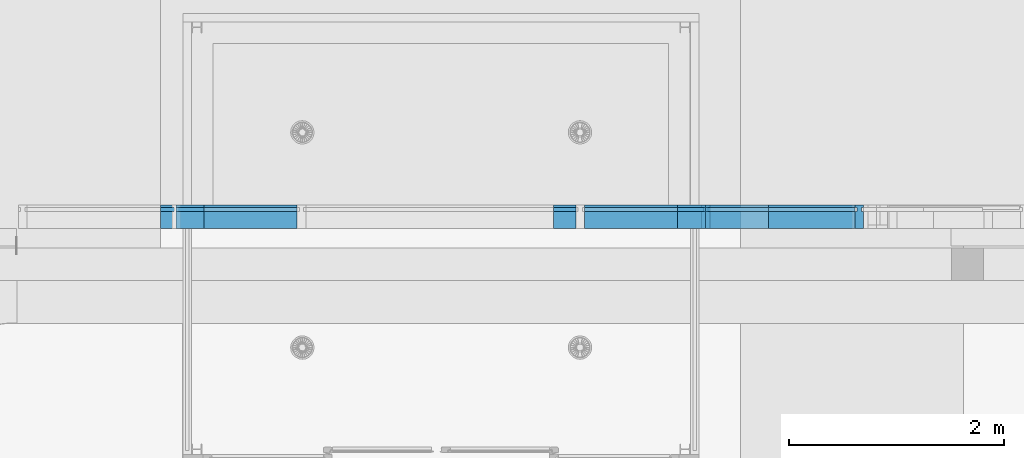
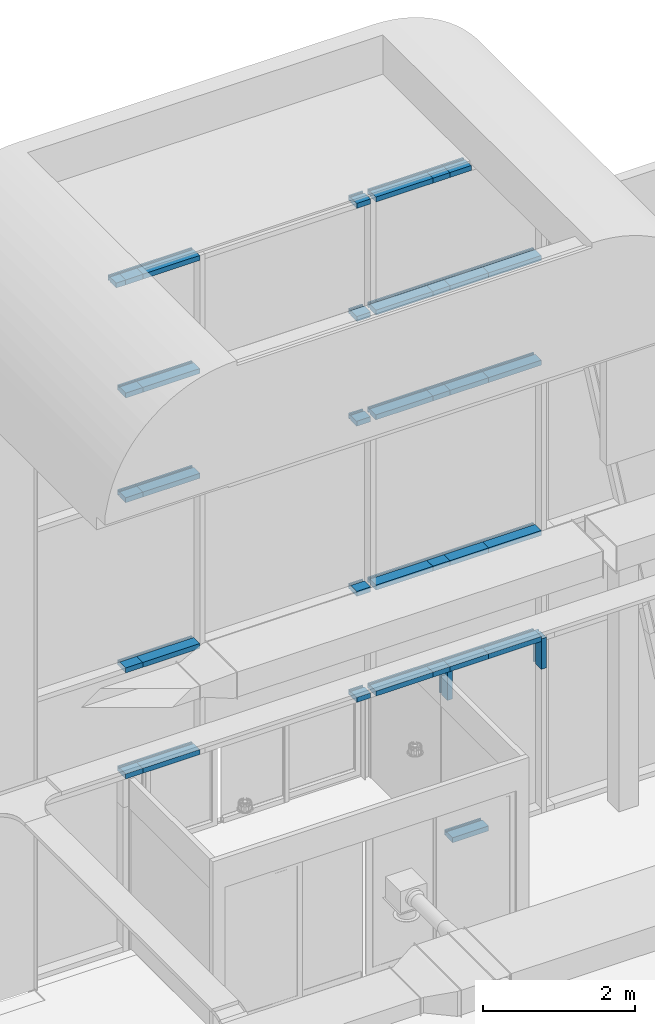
# One storey, part 192 of 302: 38 members, 1 element without a shape of its own.
"""IFC2X3 building model written with IfcOpenShell, lengths in metres."""

from ifc_helpers import new_model, entity, si_unit, converted_unit, derived_unit, direction, frame, origin, place, context, subcontext, project, spatial, polyline, outline, extrude, source, transform, mapped, material, type_object, type_shapes, element, aggregate, save


model = new_model("IFC2X3")

# Units and contexts
model_context = context("Model", 3, precision=1e-05, world=origin(), true_north=direction((6.12303176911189e-17, 1.0)))
body_context = subcontext(model_context, "Body", "Model", "MODEL_VIEW")
ifc_project = project(units=[si_unit("LENGTHUNIT", "METRE"), si_unit("AREAUNIT", "SQUARE_METRE"), si_unit("VOLUMEUNIT", "CUBIC_METRE"), converted_unit("PLANEANGLEUNIT", "DEGREE", entity("IfcRatioMeasure", 0.0174532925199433), si_unit("PLANEANGLEUNIT", "RADIAN"), dimensions=[0, 0, 0, 0, 0, 0, 0]), si_unit("MASSUNIT", "GRAM", prefix="KILO"), derived_unit("MASSDENSITYUNIT", [(si_unit("MASSUNIT", "GRAM", prefix="KILO"), 1), (si_unit("LENGTHUNIT", "METRE"), -3)]), derived_unit("MOMENTOFINERTIAUNIT", [(si_unit("LENGTHUNIT", "METRE"), 4)]), si_unit("TIMEUNIT", "SECOND"), si_unit("FREQUENCYUNIT", "HERTZ"), si_unit("THERMODYNAMICTEMPERATUREUNIT", "DEGREE_CELSIUS"), derived_unit("THERMALTRANSMITTANCEUNIT", [(si_unit("MASSUNIT", "GRAM", prefix="KILO"), 1), (si_unit("THERMODYNAMICTEMPERATUREUNIT", "KELVIN"), -1), (si_unit("TIMEUNIT", "SECOND"), -3)]), derived_unit("VOLUMETRICFLOWRATEUNIT", [(si_unit("LENGTHUNIT", "METRE"), 3), (si_unit("TIMEUNIT", "SECOND"), -1)]), si_unit("ELECTRICCURRENTUNIT", "AMPERE"), si_unit("ELECTRICVOLTAGEUNIT", "VOLT"), si_unit("POWERUNIT", "WATT"), si_unit("FORCEUNIT", "NEWTON", prefix="KILO"), si_unit("ILLUMINANCEUNIT", "LUX"), si_unit("LUMINOUSFLUXUNIT", "LUMEN"), si_unit("LUMINOUSINTENSITYUNIT", "CANDELA"), derived_unit("USERDEFINED", [(si_unit("MASSUNIT", "GRAM", prefix="KILO"), -1), (si_unit("LENGTHUNIT", "METRE"), -2), (si_unit("TIMEUNIT", "SECOND"), 3), (si_unit("LUMINOUSFLUXUNIT", "LUMEN"), 1)]), derived_unit("LINEARVELOCITYUNIT", [(si_unit("LENGTHUNIT", "METRE"), 1), (si_unit("TIMEUNIT", "SECOND"), -1)]), si_unit("PRESSUREUNIT", "PASCAL"), derived_unit("USERDEFINED", [(si_unit("LENGTHUNIT", "METRE"), -2), (si_unit("MASSUNIT", "GRAM", prefix="KILO"), 1), (si_unit("TIMEUNIT", "SECOND"), -2)]), derived_unit("LINEARFORCEUNIT", [(si_unit("MASSUNIT", "GRAM", prefix="KILO"), 1), (si_unit("LENGTHUNIT", "METRE"), 1), (si_unit("TIMEUNIT", "SECOND"), -2), (si_unit("LENGTHUNIT", "METRE"), -1)]), derived_unit("PLANARFORCEUNIT", [(si_unit("MASSUNIT", "GRAM", prefix="KILO"), 1), (si_unit("LENGTHUNIT", "METRE"), 1), (si_unit("TIMEUNIT", "SECOND"), -2), (si_unit("LENGTHUNIT", "METRE"), -2)])], contexts=[model_context])

# Site, building, storey
site_placement = place(None, origin())
site = spatial("IfcSite", under=ifc_project, at=site_placement, Name="Default", CompositionType="ELEMENT")
building_placement = place(site_placement, origin())
building = spatial("IfcBuilding", under=site, at=building_placement, CompositionType="ELEMENT")
storey_placement = place(building_placement, frame((0.0, 0.0, -1.3)))
storey = spatial("IfcBuildingStorey", under=building, at=storey_placement, Name="00_EG", CompositionType="ELEMENT", Elevation=-1.3)

# Curtain wall, members
curtain_wall_type = type_object("IfcCurtainWallType", Name="Fassade:Glasfassade", PredefinedType="NOTDEFINED")
curtain_wall_placement = place(storey_placement, frame((0.0, 0.0, 1.3)))
curtain_wall = element("IfcCurtainWall", 1, at=curtain_wall_placement, inside=storey, type_object=curtain_wall_type, Name="Fassade:Glasfassade", ObjectType="Fassade:Glasfassade")
ifc_material = material(Name="Prepainted_Steel-ArcelorMittal_Construction_HAIRULTRA-35-CORAL-4309-[RAL_3000]")
member_type_1 = type_object("IfcMemberType", Name="Rectangular Mullion:Fassadenrahmen Typ 1", PredefinedType="MULLION", material=ifc_material)
shared_shape_1 = source(origin(), body_context, "Body", "SweptSolid", [
    extrude(outline(polyline([(-0.065, -0.04), (-0.04, -0.04), (-0.04, -0.02), (-0.00499999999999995, -0.02), (-0.00499999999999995, -0.04), (0.155, -0.04), (0.155, 0.04), (-0.00499999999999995, 0.04), (-0.00499999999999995, 0.02), (-0.04, 0.02), (-0.04, 0.04), (-0.065, 0.04), (-0.065, -0.04)])), frame((0.0, 0.155, -0.86500000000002), z_axis=(0.0, 0.0, 1.0), x_axis=(0.0, -1.0, 0.0)), (0.0, 0.0, 1.0), 0.86500000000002),
])
type_shapes(member_type_1, [shared_shape_1])
member_1_placement = place(storey_placement, frame((-234.453861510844, 45.738088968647, 10.18), z_axis=(-1.0, 0.0, 0.0), x_axis=(0.0, 0.0, 1.0)))
member_1 = element("IfcMember", 2, at=member_1_placement, type_object=member_type_1, material=ifc_material, Name="Rectangular Mullion:Fassadenrahmen Typ 1", ObjectType="Rectangular Mullion:Fassadenrahmen Typ 1", context=body_context, shape_type="MappedRepresentation", body=[
    mapped(shared_shape_1, transform((0.0, 0.0, 0.0), scale=1.0)),
])
member_2_placement = place(storey_placement, frame((-234.453861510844, 45.738088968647, 8.49999999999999), z_axis=(-1.0, 0.0, 0.0), x_axis=(0.0, 0.0, 1.0)))
member_2 = element("IfcMember", 3, at=member_2_placement, type_object=member_type_1, material=ifc_material, Name="Rectangular Mullion:Fassadenrahmen Typ 1", ObjectType="Rectangular Mullion:Fassadenrahmen Typ 1", context=body_context, shape_type="MappedRepresentation", body=[
    mapped(shared_shape_1, transform((0.0, 0.0, 0.0), scale=1.0)),
])
member_3_placement = place(storey_placement, frame((-234.453861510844, 45.738088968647, 5.77), z_axis=(-1.0, 0.0, 0.0), x_axis=(0.0, 0.0, 1.0)))
member_3 = element("IfcMember", 4, at=member_3_placement, type_object=member_type_1, material=ifc_material, Name="Rectangular Mullion:Fassadenrahmen Typ 1", ObjectType="Rectangular Mullion:Fassadenrahmen Typ 1", context=body_context, shape_type="MappedRepresentation", body=[
    mapped(shared_shape_1, transform((0.0, 0.0, 0.0), scale=1.0)),
])
member_4_placement = place(storey_placement, frame((-234.453861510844, 45.738088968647, 4.06999999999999), z_axis=(-1.0, 0.0, 0.0), x_axis=(0.0, 0.0, 1.0)))
member_4 = element("IfcMember", 5, at=member_4_placement, type_object=member_type_1, material=ifc_material, Name="Rectangular Mullion:Fassadenrahmen Typ 1", ObjectType="Rectangular Mullion:Fassadenrahmen Typ 1", context=body_context, shape_type="MappedRepresentation", body=[
    mapped(shared_shape_1, transform((0.0, 0.0, 0.0), scale=1.0)),
])
member_type_2 = type_object("IfcMemberType", Name="Rectangular Mullion:Fassadenrahmen Typ 1", PredefinedType="MULLION", material=ifc_material)
shared_shape_2 = source(origin(), body_context, "Body", "SweptSolid", [
    extrude(outline(polyline([(-0.065, -0.04), (-0.04, -0.04), (-0.04, -0.02), (-0.00499999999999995, -0.02), (-0.00499999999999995, -0.04), (0.155, -0.04), (0.155, 0.04), (-0.00499999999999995, 0.04), (-0.00499999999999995, 0.02), (-0.04, 0.02), (-0.04, 0.04), (-0.065, 0.04), (-0.065, -0.04)])), frame((0.0, 0.155, -0.209108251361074), z_axis=(0.0, 0.0, 1.0), x_axis=(0.0, -1.0, 0.0)), (0.0, 0.0, 1.0), 0.209108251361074),
])
type_shapes(member_type_2, [shared_shape_2])
member_5_placement = place(storey_placement, frame((-231.207969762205, 45.738088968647, 10.18), z_axis=(-1.0, 0.0, 0.0), x_axis=(0.0, 0.0, 1.0)))
member_5 = element("IfcMember", 6, at=member_5_placement, type_object=member_type_2, material=ifc_material, Name="Rectangular Mullion:Fassadenrahmen Typ 1", ObjectType="Rectangular Mullion:Fassadenrahmen Typ 1", context=body_context, shape_type="MappedRepresentation", body=[
    mapped(shared_shape_2, transform((0.0, 0.0, 0.0), scale=1.0)),
])
member_6_placement = place(storey_placement, frame((-231.207969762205, 45.738088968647, 8.49999999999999), z_axis=(-1.0, 0.0, 0.0), x_axis=(0.0, 0.0, 1.0)))
member_6 = element("IfcMember", 7, at=member_6_placement, type_object=member_type_2, material=ifc_material, Name="Rectangular Mullion:Fassadenrahmen Typ 1", ObjectType="Rectangular Mullion:Fassadenrahmen Typ 1", context=body_context, shape_type="MappedRepresentation", body=[
    mapped(shared_shape_2, transform((0.0, 0.0, 0.0), scale=1.0)),
])
member_7_placement = place(storey_placement, frame((-231.207969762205, 45.738088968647, 5.77), z_axis=(-1.0, 0.0, 0.0), x_axis=(0.0, 0.0, 1.0)))
member_7 = element("IfcMember", 8, at=member_7_placement, type_object=member_type_2, material=ifc_material, Name="Rectangular Mullion:Fassadenrahmen Typ 1", ObjectType="Rectangular Mullion:Fassadenrahmen Typ 1", context=body_context, shape_type="MappedRepresentation", body=[
    mapped(shared_shape_2, transform((0.0, 0.0, 0.0), scale=1.0)),
])
member_8_placement = place(storey_placement, frame((-231.207969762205, 45.738088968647, 4.06999999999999), z_axis=(-1.0, 0.0, 0.0), x_axis=(0.0, 0.0, 1.0)))
member_8 = element("IfcMember", 9, at=member_8_placement, type_object=member_type_2, material=ifc_material, Name="Rectangular Mullion:Fassadenrahmen Typ 1", ObjectType="Rectangular Mullion:Fassadenrahmen Typ 1", context=body_context, shape_type="MappedRepresentation", body=[
    mapped(shared_shape_2, transform((0.0, 0.0, 0.0), scale=1.0)),
])
member_type_3 = type_object("IfcMemberType", Name="Rectangular Mullion:Fassadenrahmen Typ 1", PredefinedType="MULLION", material=ifc_material)
shared_shape_3 = source(origin(), body_context, "Body", "SweptSolid", [
    extrude(outline(polyline([(-0.065, -0.04), (-0.04, -0.04), (-0.04, -0.02), (-0.00499999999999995, -0.02), (-0.00499999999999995, -0.04), (0.155, -0.04), (0.155, 0.04), (-0.00499999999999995, 0.04), (-0.00499999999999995, 0.02), (-0.04, 0.02), (-0.04, 0.04), (-0.065, 0.04), (-0.065, -0.04)])), frame((0.0, 0.155, -0.259999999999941), z_axis=(0.0, 0.0, 1.0), x_axis=(0.0, -1.0, 0.0)), (0.0, 0.0, 1.0), 0.259999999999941),
])
type_shapes(member_type_3, [shared_shape_3])
member_9_placement = place(storey_placement, frame((-230.053861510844, 45.738088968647, 10.18), z_axis=(-1.0, 0.0, 0.0), x_axis=(0.0, 0.0, 1.0)))
member_9 = element("IfcMember", 10, at=member_9_placement, type_object=member_type_3, material=ifc_material, Name="Rectangular Mullion:Fassadenrahmen Typ 1", ObjectType="Rectangular Mullion:Fassadenrahmen Typ 1", context=body_context, shape_type="MappedRepresentation", body=[
    mapped(shared_shape_3, transform((0.0, 0.0, 0.0), scale=1.0)),
])
member_10_placement = place(storey_placement, frame((-230.053861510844, 45.738088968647, 8.49999999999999), z_axis=(-1.0, 0.0, 0.0), x_axis=(0.0, 0.0, 1.0)))
member_10 = element("IfcMember", 11, at=member_10_placement, type_object=member_type_3, material=ifc_material, Name="Rectangular Mullion:Fassadenrahmen Typ 1", ObjectType="Rectangular Mullion:Fassadenrahmen Typ 1", context=body_context, shape_type="MappedRepresentation", body=[
    mapped(shared_shape_3, transform((0.0, 0.0, 0.0), scale=1.0)),
])
member_11_placement = place(storey_placement, frame((-230.053861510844, 45.738088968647, 5.77), z_axis=(-1.0, 0.0, 0.0), x_axis=(0.0, 0.0, 1.0)))
member_11 = element("IfcMember", 12, at=member_11_placement, type_object=member_type_3, material=ifc_material, Name="Rectangular Mullion:Fassadenrahmen Typ 1", ObjectType="Rectangular Mullion:Fassadenrahmen Typ 1", context=body_context, shape_type="MappedRepresentation", body=[
    mapped(shared_shape_3, transform((0.0, 0.0, 0.0), scale=1.0)),
])
member_12_placement = place(storey_placement, frame((-234.713861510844, 45.738088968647, 10.18), z_axis=(-1.0, 0.0, 0.0), x_axis=(0.0, 0.0, 1.0)))
member_12 = element("IfcMember", 13, at=member_12_placement, type_object=member_type_3, material=ifc_material, Name="Rectangular Mullion:Fassadenrahmen Typ 1", ObjectType="Rectangular Mullion:Fassadenrahmen Typ 1", context=body_context, shape_type="MappedRepresentation", body=[
    mapped(shared_shape_3, transform((0.0, 0.0, 0.0), scale=1.0)),
])
member_13_placement = place(storey_placement, frame((-234.713861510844, 45.738088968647, 8.49999999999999), z_axis=(-1.0, 0.0, 0.0), x_axis=(0.0, 0.0, 1.0)))
member_13 = element("IfcMember", 14, at=member_13_placement, type_object=member_type_3, material=ifc_material, Name="Rectangular Mullion:Fassadenrahmen Typ 1", ObjectType="Rectangular Mullion:Fassadenrahmen Typ 1", context=body_context, shape_type="MappedRepresentation", body=[
    mapped(shared_shape_3, transform((0.0, 0.0, 0.0), scale=1.0)),
])
member_14_placement = place(storey_placement, frame((-234.713861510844, 45.738088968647, 5.77), z_axis=(-1.0, 0.0, 0.0), x_axis=(0.0, 0.0, 1.0)))
member_14 = element("IfcMember", 15, at=member_14_placement, type_object=member_type_3, material=ifc_material, Name="Rectangular Mullion:Fassadenrahmen Typ 1", ObjectType="Rectangular Mullion:Fassadenrahmen Typ 1", context=body_context, shape_type="MappedRepresentation", body=[
    mapped(shared_shape_3, transform((0.0, 0.0, 0.0), scale=1.0)),
])
member_type_4 = type_object("IfcMemberType", Name="Rectangular Mullion:Fassadenrahmen Typ 1", PredefinedType="MULLION", material=ifc_material)
shared_shape_4 = source(origin(), body_context, "Body", "SweptSolid", [
    extrude(outline(polyline([(-0.065, -0.04), (-0.04, -0.04), (-0.04, -0.02), (-0.00499999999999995, -0.02), (-0.00499999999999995, -0.04), (0.155, -0.04), (0.155, 0.04), (-0.00499999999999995, 0.04), (-0.00499999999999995, 0.02), (-0.04, 0.02), (-0.04, 0.04), (-0.065, 0.04), (-0.065, -0.04)])), frame((0.0, 0.155, -0.800000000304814), z_axis=(0.0, 0.0, 1.0), x_axis=(0.0, -1.0, 0.0)), (0.0, 0.0, 1.0), 0.800000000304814),
])
type_shapes(member_type_4, [shared_shape_4])
member_15_placement = place(storey_placement, frame((-229.207969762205, 45.738088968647, 10.18), z_axis=(-1.0, 0.0, 0.0), x_axis=(0.0, 0.0, 1.0)))
member_15 = element("IfcMember", 16, at=member_15_placement, type_object=member_type_4, material=ifc_material, Name="Rectangular Mullion:Fassadenrahmen Typ 1", ObjectType="Rectangular Mullion:Fassadenrahmen Typ 1", context=body_context, shape_type="MappedRepresentation", body=[
    mapped(shared_shape_4, transform((0.0, 0.0, 0.0), scale=1.0)),
])
member_16_placement = place(storey_placement, frame((-229.207969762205, 45.738088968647, 8.49999999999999), z_axis=(-1.0, 0.0, 0.0), x_axis=(0.0, 0.0, 1.0)))
member_16 = element("IfcMember", 17, at=member_16_placement, type_object=member_type_4, material=ifc_material, Name="Rectangular Mullion:Fassadenrahmen Typ 1", ObjectType="Rectangular Mullion:Fassadenrahmen Typ 1", context=body_context, shape_type="MappedRepresentation", body=[
    mapped(shared_shape_4, transform((0.0, 0.0, 0.0), scale=1.0)),
])
member_17_placement = place(storey_placement, frame((-229.207969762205, 45.738088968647, 5.77), z_axis=(-1.0, 0.0, 0.0), x_axis=(0.0, 0.0, 1.0)))
member_17 = element("IfcMember", 18, at=member_17_placement, type_object=member_type_4, material=ifc_material, Name="Rectangular Mullion:Fassadenrahmen Typ 1", ObjectType="Rectangular Mullion:Fassadenrahmen Typ 1", context=body_context, shape_type="MappedRepresentation", body=[
    mapped(shared_shape_4, transform((0.0, 0.0, 0.0), scale=1.0)),
])
member_18_placement = place(storey_placement, frame((-229.207969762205, 45.738088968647, 4.06999999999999), z_axis=(-1.0, 0.0, 0.0), x_axis=(0.0, 0.0, 1.0)))
member_18 = element("IfcMember", 19, at=member_18_placement, type_object=member_type_4, material=ifc_material, Name="Rectangular Mullion:Fassadenrahmen Typ 1", ObjectType="Rectangular Mullion:Fassadenrahmen Typ 1", context=body_context, shape_type="MappedRepresentation", body=[
    mapped(shared_shape_4, transform((0.0, 0.0, 0.0), scale=1.0)),
])
member_type_5 = type_object("IfcMemberType", Name="Rectangular Mullion:Fassadenrahmen Typ 1", PredefinedType="MULLION", material=ifc_material)
shared_shape_5 = source(origin(), body_context, "Body", "SweptSolid", [
    extrude(outline(polyline([(-0.065, -0.04), (-0.04, -0.04), (-0.04, -0.02), (-0.00499999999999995, -0.02), (-0.00499999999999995, -0.04), (0.155, -0.04), (0.155, 0.04), (-0.00499999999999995, 0.04), (-0.00499999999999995, 0.02), (-0.04, 0.02), (-0.04, 0.04), (-0.065, 0.04), (-0.065, -0.04)])), frame((0.0, 0.155, -0.259999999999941), z_axis=(0.0, 0.0, 1.0), x_axis=(0.0, -1.0, 0.0)), (0.0, 0.0, 1.0), 0.259999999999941),
])
type_shapes(member_type_5, [shared_shape_5])
member_19_placement = place(storey_placement, frame((-230.053861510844, 45.738088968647, 4.06999999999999), z_axis=(-1.0, 0.0, 0.0), x_axis=(0.0, 0.0, 1.0)))
member_19 = element("IfcMember", 20, at=member_19_placement, type_object=member_type_5, material=ifc_material, Name="Rectangular Mullion:Fassadenrahmen Typ 1", ObjectType="Rectangular Mullion:Fassadenrahmen Typ 1", context=body_context, shape_type="MappedRepresentation", body=[
    mapped(shared_shape_5, transform((0.0, 0.0, 0.0), scale=1.0)),
])
member_type_6 = type_object("IfcMemberType", Name="Rectangular Mullion:Fassadenrahmen Typ 1", PredefinedType="MULLION", material=ifc_material)
shared_shape_6 = source(origin(), body_context, "Body", "SweptSolid", [
    extrude(outline(polyline([(-0.065, -0.04), (-0.04, -0.04), (-0.04, -0.02), (-0.00499999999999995, -0.02), (-0.00499999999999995, -0.04), (0.155, -0.04), (0.155, 0.04), (-0.00499999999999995, 0.04), (-0.00499999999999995, 0.02), (-0.04, 0.02), (-0.04, 0.04), (-0.065, 0.04), (-0.065, -0.04)])), frame((0.0, 0.155, -0.490000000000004), z_axis=(0.0, 0.0, 1.0), x_axis=(0.0, -1.0, 0.0)), (0.0, 0.0, 1.0), 0.490000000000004),
])
type_shapes(member_type_6, [shared_shape_6])
member_20_placement = place(storey_placement, frame((-228.3679697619, 45.738088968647, 3.57999999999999), z_axis=(0.0, 0.0, -1.0), x_axis=(-1.0, 0.0, 0.0)))
member_20 = element("IfcMember", 21, at=member_20_placement, type_object=member_type_6, material=ifc_material, Name="Rectangular Mullion:Fassadenrahmen Typ 1", ObjectType="Rectangular Mullion:Fassadenrahmen Typ 1", context=body_context, shape_type="MappedRepresentation", body=[
    mapped(shared_shape_6, transform((0.0, 0.0, 0.0), scale=1.0)),
])
member_type_7 = type_object("IfcMemberType", Name="Rectangular Mullion:Fassadenrahmen Typ 1", PredefinedType="MULLION", material=ifc_material)
shared_shape_7 = source(origin(), body_context, "Body", "SweptSolid", [
    extrude(outline(polyline([(-0.065, -0.04), (-0.04, -0.04), (-0.04, -0.02), (-0.00499999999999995, -0.02), (-0.00499999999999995, -0.04), (0.155, -0.04), (0.155, 0.04), (-0.00499999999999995, 0.04), (-0.00499999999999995, 0.02), (-0.04, 0.02), (-0.04, 0.04), (-0.065, 0.04), (-0.065, -0.04)])), frame((0.0, 0.155, -0.450000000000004), z_axis=(0.0, 0.0, 1.0), x_axis=(0.0, -1.0, 0.0)), (0.0, 0.0, 1.0), 0.450000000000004),
])
type_shapes(member_type_7, [shared_shape_7])
member_21_placement = place(storey_placement, frame((-229.793861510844, 45.738088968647, 3.57999999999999), z_axis=(0.0, 0.0, -1.0), x_axis=(-1.0, 0.0, 0.0)))
member_21 = element("IfcMember", 22, at=member_21_placement, type_object=member_type_7, material=ifc_material, Name="Rectangular Mullion:Fassadenrahmen Typ 1", ObjectType="Rectangular Mullion:Fassadenrahmen Typ 1", context=body_context, shape_type="MappedRepresentation", body=[
    mapped(shared_shape_7, transform((0.0, 0.0, 0.0), scale=1.0)),
])
member_type_8 = type_object("IfcMemberType", Name="Rectangular Mullion:Fassadenrahmen Typ 1", PredefinedType="MULLION", material=ifc_material)
shared_shape_8 = source(origin(), body_context, "Body", "SweptSolid", [
    extrude(outline(polyline([(-0.065, -0.04), (-0.04, -0.04), (-0.04, -0.02), (-0.00499999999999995, -0.02), (-0.00499999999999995, -0.04), (0.155, -0.04), (0.155, 0.04), (-0.00499999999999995, 0.04), (-0.00499999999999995, 0.02), (-0.04, 0.02), (-0.04, 0.04), (-0.065, 0.04), (-0.065, -0.04)])), frame((0.0, 0.155, -0.865000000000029), z_axis=(0.0, 0.0, 1.0), x_axis=(0.0, -1.0, 0.0)), (0.0, 0.0, 1.0), 0.86500000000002),
])
type_shapes(member_type_8, [shared_shape_8])
member_22_placement = place(storey_placement, frame((-230.918861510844, 45.738088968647, 10.18), z_axis=(-1.0, 0.0, 0.0), x_axis=(0.0, 0.0, 1.0)))
member_22 = element("IfcMember", 23, at=member_22_placement, type_object=member_type_8, material=ifc_material, Name="Rectangular Mullion:Fassadenrahmen Typ 1", ObjectType="Rectangular Mullion:Fassadenrahmen Typ 1", context=body_context, shape_type="MappedRepresentation", body=[
    mapped(shared_shape_8, transform((0.0, 0.0, 0.0), scale=1.0)),
])
member_23_placement = place(storey_placement, frame((-230.918861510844, 45.738088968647, 8.49999999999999), z_axis=(-1.0, 0.0, 0.0), x_axis=(0.0, 0.0, 1.0)))
member_23 = element("IfcMember", 24, at=member_23_placement, type_object=member_type_8, material=ifc_material, Name="Rectangular Mullion:Fassadenrahmen Typ 1", ObjectType="Rectangular Mullion:Fassadenrahmen Typ 1", context=body_context, shape_type="MappedRepresentation", body=[
    mapped(shared_shape_8, transform((0.0, 0.0, 0.0), scale=1.0)),
])
member_24_placement = place(storey_placement, frame((-230.918861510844, 45.738088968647, 5.77), z_axis=(-1.0, 0.0, 0.0), x_axis=(0.0, 0.0, 1.0)))
member_24 = element("IfcMember", 25, at=member_24_placement, type_object=member_type_8, material=ifc_material, Name="Rectangular Mullion:Fassadenrahmen Typ 1", ObjectType="Rectangular Mullion:Fassadenrahmen Typ 1", context=body_context, shape_type="MappedRepresentation", body=[
    mapped(shared_shape_8, transform((0.0, 0.0, 0.0), scale=1.0)),
])
member_25_placement = place(storey_placement, frame((-230.918861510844, 45.738088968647, 4.06999999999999), z_axis=(-1.0, 0.0, 0.0), x_axis=(0.0, 0.0, 1.0)))
member_25 = element("IfcMember", 26, at=member_25_placement, type_object=member_type_8, material=ifc_material, Name="Rectangular Mullion:Fassadenrahmen Typ 1", ObjectType="Rectangular Mullion:Fassadenrahmen Typ 1", context=body_context, shape_type="MappedRepresentation", body=[
    mapped(shared_shape_8, transform((0.0, 0.0, 0.0), scale=1.0)),
])
member_type_9 = type_object("IfcMemberType", Name="Rectangular Mullion:Fassadenrahmen Typ 1", PredefinedType="MULLION", material=ifc_material)
shared_shape_9 = source(origin(), body_context, "Body", "SweptSolid", [
    extrude(outline(polyline([(-0.065, -0.04), (-0.04, -0.04), (-0.04, -0.02), (-0.00499999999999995, -0.02), (-0.00499999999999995, -0.04), (0.155, -0.04), (0.155, 0.04), (-0.00499999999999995, 0.04), (-0.00499999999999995, 0.02), (-0.04, 0.02), (-0.04, 0.04), (-0.065, 0.04), (-0.065, -0.04)])), frame((0.0, 0.155, -0.259999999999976), z_axis=(0.0, 0.0, 1.0), x_axis=(0.0, -1.0, 0.0)), (0.0, 0.0, 1.0), 0.259999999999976),
])
type_shapes(member_type_9, [shared_shape_9])
member_26_placement = place(storey_placement, frame((-234.713861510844, 45.738088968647, 4.06999999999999), z_axis=(-1.0, 0.0, 0.0), x_axis=(0.0, 0.0, 1.0)))
member_26 = element("IfcMember", 27, at=member_26_placement, type_object=member_type_9, material=ifc_material, Name="Rectangular Mullion:Fassadenrahmen Typ 1", ObjectType="Rectangular Mullion:Fassadenrahmen Typ 1", context=body_context, shape_type="MappedRepresentation", body=[
    mapped(shared_shape_9, transform((0.0, 0.0, 0.0), scale=1.0)),
])
member_type_10 = type_object("IfcMemberType", Name="Rectangular Mullion:Fassadenrahmen Typ 1", PredefinedType="MULLION", material=ifc_material)
shared_shape_10 = source(origin(), body_context, "Body", "SweptSolid", [
    extrude(outline(polyline([(-0.065, -0.04), (-0.04, -0.04), (-0.04, -0.02), (-0.00499999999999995, -0.02), (-0.00499999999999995, -0.04), (0.155, -0.04), (0.155, 0.04), (-0.00499999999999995, 0.04), (-0.00499999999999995, 0.02), (-0.04, 0.02), (-0.04, 0.04), (-0.065, 0.04), (-0.065, -0.04)])), frame((-0.04, 0.155, -0.865000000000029), z_axis=(0.0, 0.0, 1.0), x_axis=(0.0, -1.0, 0.0)), (0.0, 0.0, 1.0), 0.86500000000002),
])
type_shapes(member_type_10, [shared_shape_10])
member_27_placement = place(storey_placement, frame((-234.453861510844, 45.738088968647, 12.035), z_axis=(-1.0, 0.0, 0.0), x_axis=(0.0, 0.0, 1.0)))
member_27 = element("IfcMember", 28, at=member_27_placement, type_object=member_type_10, material=ifc_material, Name="Rectangular Mullion:Fassadenrahmen Typ 1", ObjectType="Rectangular Mullion:Fassadenrahmen Typ 1", context=body_context, shape_type="MappedRepresentation", body=[
    mapped(shared_shape_10, transform((0.0, 0.0, 0.0), scale=1.0)),
])
member_type_11 = type_object("IfcMemberType", Name="Rectangular Mullion:Fassadenrahmen Typ 1", PredefinedType="MULLION", material=ifc_material)
shared_shape_11 = source(origin(), body_context, "Body", "SweptSolid", [
    extrude(outline(polyline([(-0.065, -0.04), (-0.04, -0.04), (-0.04, -0.02), (-0.00499999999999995, -0.02), (-0.00499999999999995, -0.04), (0.155, -0.04), (0.155, 0.04), (-0.00499999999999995, 0.04), (-0.00499999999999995, 0.02), (-0.04, 0.02), (-0.04, 0.04), (-0.065, 0.04), (-0.065, -0.04)])), frame((-0.04, 0.155, -0.259999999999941), z_axis=(0.0, 0.0, 1.0), x_axis=(0.0, -1.0, 0.0)), (0.0, 0.0, 1.0), 0.259999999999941),
])
type_shapes(member_type_11, [shared_shape_11])
member_28_placement = place(storey_placement, frame((-230.053861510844, 45.738088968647, 12.035), z_axis=(-1.0, 0.0, 0.0), x_axis=(0.0, 0.0, 1.0)))
member_28 = element("IfcMember", 29, at=member_28_placement, type_object=member_type_11, material=ifc_material, Name="Rectangular Mullion:Fassadenrahmen Typ 1", ObjectType="Rectangular Mullion:Fassadenrahmen Typ 1", context=body_context, shape_type="MappedRepresentation", body=[
    mapped(shared_shape_11, transform((0.0, 0.0, 0.0), scale=1.0)),
])
member_29_placement = place(storey_placement, frame((-234.713861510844, 45.738088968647, 12.035), z_axis=(-1.0, 0.0, 0.0), x_axis=(0.0, 0.0, 1.0)))
member_29 = element("IfcMember", 30, at=member_29_placement, type_object=member_type_11, material=ifc_material, Name="Rectangular Mullion:Fassadenrahmen Typ 1", ObjectType="Rectangular Mullion:Fassadenrahmen Typ 1", context=body_context, shape_type="MappedRepresentation", body=[
    mapped(shared_shape_11, transform((0.0, 0.0, 0.0), scale=1.0)),
])
member_type_12 = type_object("IfcMemberType", Name="Rectangular Mullion:Fassadenrahmen Typ 1", PredefinedType="MULLION", material=ifc_material)
shared_shape_12 = source(origin(), body_context, "Body", "SweptSolid", [
    extrude(outline(polyline([(-0.065, -0.04), (-0.04, -0.04), (-0.04, -0.02), (-0.00499999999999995, -0.02), (-0.00499999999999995, -0.04), (0.155, -0.04), (0.155, 0.04), (-0.00499999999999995, 0.04), (-0.00499999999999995, 0.02), (-0.04, 0.02), (-0.04, 0.04), (-0.065, 0.04), (-0.065, -0.04)])), frame((-0.04, 0.155, -0.325286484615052), z_axis=(0.0, 0.0, 1.0), x_axis=(0.0, -1.0, 0.0)), (0.0, 0.0, 1.0), 0.325286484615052),
])
type_shapes(member_type_12, [shared_shape_12])
member_30_placement = place(storey_placement, frame((-229.793861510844, 45.738088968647, 12.035), z_axis=(-1.0, 0.0, 0.0), x_axis=(0.0, 0.0, 1.0)))
member_30 = element("IfcMember", 31, at=member_30_placement, type_object=member_type_12, material=ifc_material, Name="Rectangular Mullion:Fassadenrahmen Typ 1", ObjectType="Rectangular Mullion:Fassadenrahmen Typ 1", context=body_context, shape_type="MappedRepresentation", body=[
    mapped(shared_shape_12, transform((0.0, 0.0, 0.0), scale=1.0)),
])
member_type_13 = type_object("IfcMemberType", Name="Rectangular Mullion:Fassadenrahmen Typ 1", PredefinedType="MULLION", material=ifc_material)
shared_shape_13 = source(origin(), body_context, "Body", "SweptSolid", [
    extrude(outline(polyline([(-0.065, -0.04), (-0.04, -0.04), (-0.04, -0.02), (-0.00499999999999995, -0.02), (-0.00499999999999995, -0.04), (0.155, -0.04), (0.155, 0.04), (-0.00499999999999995, 0.04), (-0.00499999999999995, 0.02), (-0.04, 0.02), (-0.04, 0.04), (-0.065, 0.04), (-0.065, -0.04)])), frame((-0.04, 0.155, -0.865000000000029), z_axis=(0.0, 0.0, 1.0), x_axis=(0.0, -1.0, 0.0)), (0.0, 0.0, 1.0), 0.86500000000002),
])
type_shapes(member_type_13, [shared_shape_13])
member_31_placement = place(storey_placement, frame((-230.918861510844, 45.738088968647, 12.035), z_axis=(-1.0, 0.0, 0.0), x_axis=(0.0, 0.0, 1.0)))
member_31 = element("IfcMember", 32, at=member_31_placement, type_object=member_type_13, material=ifc_material, Name="Rectangular Mullion:Fassadenrahmen Typ 1", ObjectType="Rectangular Mullion:Fassadenrahmen Typ 1", context=body_context, shape_type="MappedRepresentation", body=[
    mapped(shared_shape_13, transform((0.0, 0.0, 0.0), scale=1.0)),
])
member_type_14 = type_object("IfcMemberType", Name="Rectangular Mullion:Fassadenrahmen Typ 1", PredefinedType="MULLION", material=ifc_material)
shared_shape_14 = source(origin(), body_context, "Body", "SweptSolid", [
    extrude(outline(polyline([(-0.065, -0.04), (-0.04, -0.04), (-0.04, -0.02), (-0.00499999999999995, -0.02), (-0.00499999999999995, -0.04), (0.155, -0.04), (0.155, 0.04), (-0.00499999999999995, 0.04), (-0.00499999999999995, 0.02), (-0.04, 0.02), (-0.04, 0.04), (-0.065, 0.04), (-0.065, -0.04)])), frame((-0.04, 0.155, -0.145000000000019), z_axis=(0.0, 0.0, 1.0), x_axis=(0.0, -1.0, 0.0)), (0.0, 0.0, 1.0), 0.145000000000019),
])
type_shapes(member_type_14, [shared_shape_14])
member_32_placement = place(storey_placement, frame((-234.858861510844, 45.738088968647, 12.035), z_axis=(-1.0, 0.0, 0.0), x_axis=(0.0, 0.0, 1.0)))
member_32 = element("IfcMember", 33, at=member_32_placement, type_object=member_type_14, material=ifc_material, Name="Rectangular Mullion:Fassadenrahmen Typ 1", ObjectType="Rectangular Mullion:Fassadenrahmen Typ 1", context=body_context, shape_type="MappedRepresentation", body=[
    mapped(shared_shape_14, transform((0.0, 0.0, 0.0), scale=1.0)),
])
member_type_15 = type_object("IfcMemberType", Name="Rectangular Mullion:Fassadenrahmen Typ 1", PredefinedType="MULLION", material=ifc_material)
shared_shape_15 = source(origin(), body_context, "Body", "SweptSolid", [
    extrude(outline(polyline([(-0.065, -0.04), (-0.04, -0.04), (-0.04, -0.02), (-0.00499999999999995, -0.02), (-0.00499999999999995, -0.04), (0.155, -0.04), (0.155, 0.04), (-0.00499999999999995, 0.04), (-0.00499999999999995, 0.02), (-0.04, 0.02), (-0.04, 0.04), (-0.065, 0.04), (-0.065, -0.04)])), frame((0.0, 0.155, -0.585891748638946), z_axis=(0.0, 0.0, 1.0), x_axis=(0.0, -1.0, 0.0)), (0.0, 0.0, 1.0), 0.585891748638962),
])
type_shapes(member_type_15, [shared_shape_15])
member_33_placement = place(storey_placement, frame((-229.793861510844, 45.738088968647, 10.18), z_axis=(-1.0, 0.0, 0.0), x_axis=(0.0, 0.0, 1.0)))
member_33 = element("IfcMember", 34, at=member_33_placement, type_object=member_type_15, material=ifc_material, Name="Rectangular Mullion:Fassadenrahmen Typ 1", ObjectType="Rectangular Mullion:Fassadenrahmen Typ 1", context=body_context, shape_type="MappedRepresentation", body=[
    mapped(shared_shape_15, transform((0.0, 0.0, 0.0), scale=1.0)),
])
member_34_placement = place(storey_placement, frame((-229.793861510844, 45.738088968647, 8.49999999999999), z_axis=(-1.0, 0.0, 0.0), x_axis=(0.0, 0.0, 1.0)))
member_34 = element("IfcMember", 35, at=member_34_placement, type_object=member_type_15, material=ifc_material, Name="Rectangular Mullion:Fassadenrahmen Typ 1", ObjectType="Rectangular Mullion:Fassadenrahmen Typ 1", context=body_context, shape_type="MappedRepresentation", body=[
    mapped(shared_shape_15, transform((0.0, 0.0, 0.0), scale=1.0)),
])
member_35_placement = place(storey_placement, frame((-229.793861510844, 45.738088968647, 5.77), z_axis=(-1.0, 0.0, 0.0), x_axis=(0.0, 0.0, 1.0)))
member_35 = element("IfcMember", 36, at=member_35_placement, type_object=member_type_15, material=ifc_material, Name="Rectangular Mullion:Fassadenrahmen Typ 1", ObjectType="Rectangular Mullion:Fassadenrahmen Typ 1", context=body_context, shape_type="MappedRepresentation", body=[
    mapped(shared_shape_15, transform((0.0, 0.0, 0.0), scale=1.0)),
])
member_type_16 = type_object("IfcMemberType", Name="Rectangular Mullion:Fassadenrahmen Typ 1", PredefinedType="MULLION", material=ifc_material)
shared_shape_16 = source(origin(), body_context, "Body", "SweptSolid", [
    extrude(outline(polyline([(-0.065, -0.04), (-0.04, -0.04), (-0.04, -0.02), (-0.00499999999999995, -0.02), (-0.00499999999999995, -0.04), (0.155, -0.04), (0.155, 0.04), (-0.00499999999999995, 0.04), (-0.00499999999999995, 0.02), (-0.04, 0.02), (-0.04, 0.04), (-0.065, 0.04), (-0.065, -0.04)])), frame((0.0, 0.155, -0.585891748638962), z_axis=(0.0, 0.0, 1.0), x_axis=(0.0, -1.0, 0.0)), (0.0, 0.0, 1.0), 0.585891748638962),
])
type_shapes(member_type_16, [shared_shape_16])
member_36_placement = place(storey_placement, frame((-229.793861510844, 45.738088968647, 4.06999999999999), z_axis=(-1.0, 0.0, 0.0), x_axis=(0.0, 0.0, 1.0)))
member_36 = element("IfcMember", 37, at=member_36_placement, type_object=member_type_16, material=ifc_material, Name="Rectangular Mullion:Fassadenrahmen Typ 1", ObjectType="Rectangular Mullion:Fassadenrahmen Typ 1", context=body_context, shape_type="MappedRepresentation", body=[
    mapped(shared_shape_16, transform((0.0, 0.0, 0.0), scale=1.0)),
])
member_type_17 = type_object("IfcMemberType", Name="Rectangular Mullion:Fassadenrahmen Typ 1", PredefinedType="MULLION", material=ifc_material)
shared_shape_17 = source(origin(), body_context, "Body", "SweptSolid", [
    extrude(outline(polyline([(-0.065, -0.04), (-0.04, -0.04), (-0.04, -0.02), (-0.00499999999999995, -0.02), (-0.00499999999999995, -0.04), (0.155, -0.04), (0.155, 0.04), (-0.00499999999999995, 0.04), (-0.00499999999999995, 0.02), (-0.04, 0.02), (-0.04, 0.04), (-0.065, 0.04), (-0.065, -0.04)])), frame((-0.04, 0.155, -0.209108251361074), z_axis=(0.0, 0.0, 1.0), x_axis=(0.0, -1.0, 0.0)), (0.0, 0.0, 1.0), 0.209108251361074),
])
type_shapes(member_type_17, [shared_shape_17])
member_37_placement = place(storey_placement, frame((-231.207969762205, 45.738088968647, 12.035), z_axis=(-1.0, 0.0, 0.0), x_axis=(0.0, 0.0, 1.0)))
member_37 = element("IfcMember", 38, at=member_37_placement, type_object=member_type_17, material=ifc_material, Name="Rectangular Mullion:Fassadenrahmen Typ 1", ObjectType="Rectangular Mullion:Fassadenrahmen Typ 1", context=body_context, shape_type="MappedRepresentation", body=[
    mapped(shared_shape_17, transform((0.0, 0.0, 0.0), scale=1.0)),
])
member_type_18 = type_object("IfcMemberType", Name="Rectangular Mullion:Fassadenrahmen Typ 1", PredefinedType="MULLION", material=ifc_material)
shared_shape_18 = source(origin(), body_context, "Body", "SweptSolid", [
    extrude(outline(polyline([(-0.0649999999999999, -0.04), (-0.04, -0.04), (-0.04, -0.02), (-0.00499999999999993, -0.02), (-0.00499999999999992, -0.04), (0.155, -0.0399999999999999), (0.155, 0.0400000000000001), (-0.00499999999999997, 0.04), (-0.00499999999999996, 0.02), (-0.04, 0.02), (-0.04, 0.04), (-0.065, 0.0399999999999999), (-0.0649999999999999, -0.04)])), frame((-0.04, 0.155, -0.545891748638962), z_axis=(0.0, 0.0, 1.0), x_axis=(0.0, -1.0, 0.0)), (0.0, 0.0, 1.0), 0.545891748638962),
])
type_shapes(member_type_18, [shared_shape_18])
member_38_placement = place(storey_placement, frame((-229.207969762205, 45.738088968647, 1.27), z_axis=(1.0, 0.0, 0.0), x_axis=(0.0, 0.0, -1.0)))
member_38 = element("IfcMember", 39, at=member_38_placement, type_object=member_type_18, material=ifc_material, Name="Rectangular Mullion:Fassadenrahmen Typ 1", ObjectType="Rectangular Mullion:Fassadenrahmen Typ 1", context=body_context, shape_type="MappedRepresentation", body=[
    mapped(shared_shape_18, transform((0.0, 0.0, 0.0), scale=1.0)),
])
aggregate(curtain_wall, [member_1, member_5, member_9, member_15, member_10, member_16, member_2, member_6, member_11, member_17, member_3, member_7, member_19, member_18, member_4, member_8, member_20, member_21, member_22, member_23, member_24, member_25, member_12, member_13, member_14, member_26, member_27, member_28, member_29, member_30, member_31, member_32, member_33, member_34, member_35, member_36, member_37, member_38])

save(model, "model.ifc")
